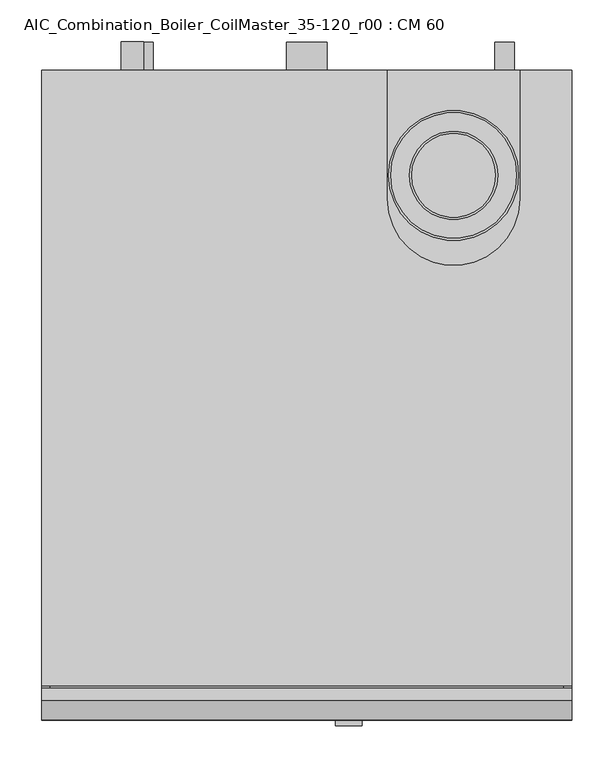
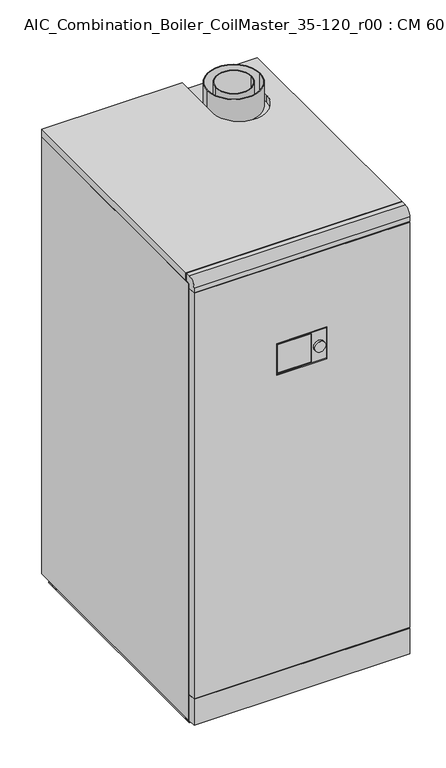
"""IFC4 building model written with IfcOpenShell, lengths in millimetres: unitary equipment geometry, AIC_Combination_Boiler_CoilMaster_35-120_r00 : CM 60."""

from ifc_helpers import new_model, si_unit, point, frame, frame_2d, origin, place, context, project, spatial, polyline, circle_curve, trimmed, segment, composite_curve, outline, extrude, source, transform, mapped, element, save
from ifc_brep_helpers import plane_surface, cylinder_surface, revolved_surface, advanced_brep


def aic_combination_boiler_coilmaster_35_120_r00_cm_60_199503dd(model_context):
    return source(origin(), model_context, "Body", "SolidModel", [
        advanced_brep(
        [(72.0, -774.0, 1115.5), (-72.0, -774.0, 1115.5), (-72.0, -774.0, 1022.5), (72.0, -774.0, 1022.5), (-70.0, -774.0, 1113.5), (28.0, -774.0, 1113.5), (28.0, -774.0, 1024.5), (-70.0, -774.0, 1024.5), (66.0, -774.0, 1069.0), (34.0, -774.0, 1069.0), (72.0, -764.0, 1115.5), (72.0, -764.0, 1022.5), (-72.0, -764.0, 1022.5), (-72.0, -764.0, 1115.5), (28.0, -772.0, 1113.5), (-70.0, -772.0, 1113.5), (-70.0, -772.0, 1024.5), (28.0, -772.0, 1024.5), (34.0, -781.0, 1069.0), (66.0, -781.0, 1069.0)],
        [
            (0, 1),
            (1, 2),
            (2, 3),
            (3, 0),
            (4, 5),
            (5, 6),
            (6, 7),
            (7, 4),
            (8, 9, circle_curve(frame((50.0, -774.0, 1069.0), z_axis=(0.0, 1.0, 0.0), x_axis=(1.0, 0.0, 0.0)), 16.0)),
            (9, 8, circle_curve(frame((50.0, -774.0, 1069.0), z_axis=(0.0, 1.0, 0.0), x_axis=(1.0, 0.0, 0.0)), 16.0)),
            (10, 11),
            (11, 12),
            (12, 13),
            (13, 10),
            (0, 10),
            (13, 1),
            (12, 2),
            (11, 3),
            (14, 15),
            (15, 16),
            (16, 17),
            (17, 14),
            (14, 5),
            (4, 15),
            (7, 16),
            (6, 17),
            (18, 19, circle_curve(frame((50.0, -781.0, 1069.0), z_axis=(0.0, -1.0, 0.0), x_axis=(1.0, 0.0, 0.0)), 16.0)),
            (19, 18, circle_curve(frame((50.0, -781.0, 1069.0), z_axis=(0.0, -1.0, 0.0), x_axis=(1.0, 0.0, 0.0)), 16.0)),
            (18, 9),
            (8, 19),
        ],
        [
            plane_surface(frame((-72.0, -774.0, 1115.5), z_axis=(0.0, -1.0, 0.0), x_axis=(-1.0, 0.0, 0.0))),
            plane_surface(frame((-72.0, -764.0, 1115.5), z_axis=(0.0, 1.0, 0.0), x_axis=(1.0, 0.0, 0.0))),
            plane_surface(frame((72.0, -774.0, 1115.5), z_axis=(0.0, 0.0, 1.0), x_axis=(0.0, 1.0, 0.0))),
            plane_surface(frame((-72.0, -774.0, 1115.5), z_axis=(-1.0, 0.0, 0.0), x_axis=(0.0, 1.0, 0.0))),
            plane_surface(frame((-72.0, -774.0, 1022.5), z_axis=(0.0, 0.0, -1.0), x_axis=(0.0, 1.0, 0.0))),
            plane_surface(frame((72.0, -774.0, 1022.5), z_axis=(1.0, 0.0, 0.0), x_axis=(0.0, 1.0, 0.0))),
            plane_surface(frame((-70.0, -772.0, 1113.5), z_axis=(0.0, -1.0, 0.0), x_axis=(1.0, 0.0, 0.0))),
            plane_surface(frame((28.0, -774.0, 1113.5), z_axis=(0.0, 0.0, -1.0), x_axis=(0.0, 1.0, 0.0))),
            plane_surface(frame((-70.0, -774.0, 1113.5), z_axis=(1.0, 0.0, 0.0), x_axis=(0.0, 1.0, 0.0))),
            plane_surface(frame((-70.0, -774.0, 1024.5), z_axis=(0.0, 0.0, 1.0), x_axis=(0.0, 1.0, 0.0))),
            plane_surface(frame((28.0, -774.0, 1024.5), z_axis=(-1.0, 0.0, 0.0), x_axis=(0.0, 1.0, 0.0))),
            plane_surface(frame((66.0, -781.0, 1069.0), z_axis=(0.0, -1.0, 0.0), x_axis=(0.0, 0.0, 1.0))),
            cylinder_surface(frame((50.0, -774.0, 1069.0), z_axis=(0.0, -1.0, 0.0), x_axis=(1.0, 0.0, 0.0)), 16.0),
        ],
        [
            (0, [[1, 2, 3, 4], [5, 6, 7, 8], [9, 10]]),
            (1, [[11, 12, 13, 14]]),
            (2, [[-1, 15, -14, 16]]),
            (3, [[-2, -16, -13, 17]]),
            (4, [[-3, -17, -12, 18]]),
            (5, [[-4, -18, -11, -15]]),
            (6, [[19, 20, 21, 22]]),
            (7, [[-19, 23, -5, 24]]),
            (8, [[-20, -24, -8, 25]]),
            (9, [[-21, -25, -7, 26]]),
            (10, [[-22, -26, -6, -23]]),
            (11, [[27, 28]]),
            (12, [[-27, 29, -9, 30]]),
            (12, [[-28, -30, -10, -29]]),
        ],
    ),
        extrude(outline(polyline([(0.0, -35.0), (0.0, 35.0), (102.0, 74.5), (102.0, -74.5), (0.0, -35.0)])), frame((0.0, -733.0, 0.0), z_axis=(0.0, 1.0, 0.0), x_axis=(0.0, 0.0, 1.0)), (0.0, 0.0, 1.0), 715.0),
        extrude(outline(composite_curve([segment(trimmed(circle_curve(frame_2d((139.0, 236.0)), 11.5), [point((139.0, 224.5))], [point((139.0, 247.5))], False, "CARTESIAN"), True, "CONTINUOUS"), segment(trimmed(circle_curve(frame_2d((139.0, 236.0)), 11.5), [point((139.0, 247.5))], [point((139.0, 224.5))], False, "CARTESIAN"), True, "CONTINUOUS")], self_intersect=False)), frame((0.0, 0.0, 0.0), z_axis=(0.0, 1.0, 0.0), x_axis=(0.0, 0.0, 1.0)), (0.0, 0.0, 1.0), 34.0),
        extrude(outline(composite_curve([segment(trimmed(circle_curve(frame_2d((301.0, 0.0)), 24.15), [point((301.0, -24.15))], [point((301.0, 24.15))], False, "CARTESIAN"), True, "CONTINUOUS"), segment(trimmed(circle_curve(frame_2d((301.0, 0.0)), 24.15), [point((301.0, 24.15))], [point((301.0, -24.15))], False, "CARTESIAN"), True, "CONTINUOUS")], self_intersect=False)), frame((0.0, 0.0, 0.0), z_axis=(0.0, 1.0, 0.0), x_axis=(0.0, 0.0, 1.0)), (0.0, 0.0, 1.0), 34.0),
        extrude(outline(composite_curve([segment(trimmed(circle_curve(frame_2d((352.0, -204.0)), 16.7), [point((352.0, -220.7))], [point((352.0, -187.3))], False, "CARTESIAN"), True, "CONTINUOUS"), segment(trimmed(circle_curve(frame_2d((352.0, -204.0)), 16.7), [point((352.0, -187.3))], [point((352.0, -220.7))], False, "CARTESIAN"), True, "CONTINUOUS")], self_intersect=False)), frame((0.0, 0.0, 0.0), z_axis=(0.0, 1.0, 0.0), x_axis=(0.0, 0.0, 1.0)), (0.0, 0.0, 1.0), 34.0),
        extrude(outline(composite_curve([segment(trimmed(circle_curve(frame_2d((472.0, -204.0)), 13.35), [point((472.0, -217.35))], [point((472.0, -190.65))], False, "CARTESIAN"), True, "CONTINUOUS"), segment(trimmed(circle_curve(frame_2d((472.0, -204.0)), 13.35), [point((472.0, -190.65))], [point((472.0, -217.35))], False, "CARTESIAN"), True, "CONTINUOUS")], self_intersect=False)), frame((0.0, 0.0, 0.0), z_axis=(0.0, 1.0, 0.0), x_axis=(0.0, 0.0, 1.0)), (0.0, 0.0, 1.0), 34.0),
        extrude(outline(composite_curve([segment(trimmed(circle_curve(frame_2d((586.0, -204.0)), 16.7), [point((586.0, -220.7))], [point((586.0, -187.3))], False, "CARTESIAN"), True, "CONTINUOUS"), segment(trimmed(circle_curve(frame_2d((586.0, -204.0)), 16.7), [point((586.0, -187.3))], [point((586.0, -220.7))], False, "CARTESIAN"), True, "CONTINUOUS")], self_intersect=False)), frame((0.0, 0.0, 0.0), z_axis=(0.0, 1.0, 0.0), x_axis=(0.0, 0.0, 1.0)), (0.0, 0.0, 1.0), 34.0),
        extrude(outline(composite_curve([segment(trimmed(circle_curve(frame_2d((1039.0, -200.0)), 16.7), [point((1039.0, -216.7))], [point((1039.0, -183.3))], False, "CARTESIAN"), True, "CONTINUOUS"), segment(trimmed(circle_curve(frame_2d((1039.0, -200.0)), 16.7), [point((1039.0, -183.3))], [point((1039.0, -216.7))], False, "CARTESIAN"), True, "CONTINUOUS")], self_intersect=False)), frame((0.0, 0.0, 0.0), z_axis=(0.0, 1.0, 0.0), x_axis=(0.0, 0.0, 1.0)), (0.0, 0.0, 1.0), 34.0),
        extrude(outline(composite_curve([segment(trimmed(circle_curve(frame_2d((1087.0, 0.0)), 24.15), [point((1087.0, -24.15))], [point((1087.0, 24.15))], False, "CARTESIAN"), True, "CONTINUOUS"), segment(trimmed(circle_curve(frame_2d((1087.0, 0.0)), 24.15), [point((1087.0, 24.15))], [point((1087.0, -24.15))], False, "CARTESIAN"), True, "CONTINUOUS")], self_intersect=False)), frame((0.0, 0.0, 0.0), z_axis=(0.0, 1.0, 0.0), x_axis=(0.0, 0.0, 1.0)), (0.0, 0.0, 1.0), 34.0),
        extrude(outline(composite_curve([segment(trimmed(circle_curve(frame_2d((1220.0, -208.0)), 13.35), [point((1220.0, -221.35))], [point((1220.0, -194.65))], False, "CARTESIAN"), True, "CONTINUOUS"), segment(trimmed(circle_curve(frame_2d((1220.0, -208.0)), 13.35), [point((1220.0, -194.65))], [point((1220.0, -221.35))], False, "CARTESIAN"), True, "CONTINUOUS")], self_intersect=False)), frame((0.0, 0.0, 0.0), z_axis=(0.0, 1.0, 0.0), x_axis=(0.0, 0.0, 1.0)), (0.0, 0.0, 1.0), 34.0),
        extrude(outline(composite_curve([segment(trimmed(circle_curve(frame_2d((175.0, -125.0)), 52.5), [point((122.5, -125.0))], [point((227.5, -125.0))], False, "CARTESIAN"), True, "CONTINUOUS"), segment(trimmed(circle_curve(frame_2d((175.0, -125.0)), 52.5), [point((227.5, -125.0))], [point((122.5, -125.0))], False, "CARTESIAN"), True, "CONTINUOUS")], self_intersect=False), holes=[composite_curve([segment(trimmed(circle_curve(frame_2d((175.0, -125.0)), 50.0), [point((125.0, -125.0))], [point((225.0, -125.0))], True, "CARTESIAN"), True, "CONTINUOUS"), segment(trimmed(circle_curve(frame_2d((175.0, -125.0)), 50.0), [point((225.0, -125.0))], [point((125.0, -125.0))], True, "CARTESIAN"), True, "CONTINUOUS")], self_intersect=False)]), frame((0.0, 0.0, 1374.5), z_axis=(0.0, 0.0, 1.0), x_axis=(1.0, 0.0, 0.0)), (0.0, 0.0, 1.0), 73.5),
        extrude(outline(composite_curve([segment(trimmed(circle_curve(frame_2d((175.0, -125.0)), 77.5), [point((97.5, -125.0))], [point((252.5, -125.0))], False, "CARTESIAN"), True, "CONTINUOUS"), segment(trimmed(circle_curve(frame_2d((175.0, -125.0)), 77.5), [point((252.5, -125.0))], [point((97.5, -125.0))], False, "CARTESIAN"), True, "CONTINUOUS")], self_intersect=False), holes=[composite_curve([segment(trimmed(circle_curve(frame_2d((175.0, -125.0)), 75.0), [point((100.0, -125.0))], [point((250.0, -125.0))], True, "CARTESIAN"), True, "CONTINUOUS"), segment(trimmed(circle_curve(frame_2d((175.0, -125.0)), 75.0), [point((250.0, -125.0))], [point((100.0, -125.0))], True, "CARTESIAN"), True, "CONTINUOUS")], self_intersect=False)]), frame((0.0, 0.0, 1374.5), z_axis=(0.0, 0.0, 1.0), x_axis=(1.0, 0.0, 0.0)), (0.0, 0.0, 1.0), 73.5),
        advanced_brep(
        [(316.0, -774.0, 20.0), (-316.0, -774.0, 20.0), (-316.0, -750.5, 20.0), (-306.0, -750.5, 20.0), (-306.0, -748.0, 20.0), (306.0, -748.0, 20.0), (306.0, -750.5, 20.0), (316.0, -750.5, 20.0), (-316.0, 0.0, 20.0), (-306.0, 0.0, 20.0), (-306.0, -58.0, 20.0), (-306.0, -693.0, 20.0), (-316.0, -748.0, 20.0), (306.0, 0.0, 20.0), (316.0, 0.0, 20.0), (316.0, -748.0, 20.0), (306.0, -693.0, 20.0), (306.0, -58.0, 20.0), (-306.0, -748.0, 100.0), (306.0, -748.0, 100.0), (-306.0, -18.0, 0.0), (-260.0, -18.0, 0.0), (-260.0, -733.0, 0.0), (-306.0, -733.0, 0.0), (260.0, -18.0, 0.0), (306.0, -18.0, 0.0), (306.0, -733.0, 0.0), (260.0, -733.0, 0.0), (-306.0, -58.0, 102.0), (-260.0, -58.0, 102.0), (-260.0, -58.0, 3.0), (-306.0, -58.0, 3.0), (-306.0, -18.0, 3.0), (-306.0, -733.0, 3.0), (-306.0, -693.0, 3.0), (-260.0, -693.0, 102.0), (-306.0, -693.0, 102.0), (-260.0, -693.0, 3.0), (-260.0, -733.0, 3.0), (-260.0, -18.0, 3.0), (260.0, -58.0, 102.0), (306.0, -58.0, 102.0), (306.0, -58.0, 3.0), (260.0, -58.0, 3.0), (260.0, -693.0, 102.0), (260.0, -18.0, 3.0), (260.0, -733.0, 3.0), (260.0, -693.0, 3.0), (306.0, -693.0, 102.0), (306.0, -693.0, 3.0), (306.0, -733.0, 3.0), (306.0, -18.0, 3.0), (-316.0, -750.5, 1398.0), (316.0, -750.5, 1398.0), (316.0, -736.0, 1398.0), (-316.0, -736.0, 1398.0), (-316.0, 0.0, 1398.0), (-316.0, -733.0, 1398.0), (316.0, -733.0, 1398.0), (316.0, 0.0, 1398.0), (254.5, 0.0, 1398.0), (254.5, -153.0, 1398.0), (95.5, -153.0, 1398.0), (95.5, 0.0, 1398.0), (-306.0, 0.0, 102.0), (306.0, 0.0, 102.0), (306.0, -748.0, 102.0), (306.0, -750.5, 102.0), (316.0, -750.5, 102.0), (316.0, -774.0, 102.0), (-316.0, -774.0, 102.0), (-316.0, -750.5, 102.0), (-306.0, -750.5, 102.0), (-306.0, -748.0, 102.0), (316.0, 0.0, 1374.5), (306.0, 0.0, 1374.5), (306.0, 0.0, 1372.5), (316.0, 0.0, 1372.5), (-316.0, 0.0, 1372.5), (-306.0, 0.0, 1372.5), (-306.0, 0.0, 1374.5), (-316.0, 0.0, 1374.5), (95.5, 0.0, 1374.5), (254.5, 0.0, 1374.5), (-21.1, 0.0, 1173.0), (21.1, 0.0, 1173.0), (-316.0, -774.0, 1358.0), (-316.0, -750.5, 1358.0), (-316.0, -733.0, 1374.5), (-316.0, -774.0, 1374.5), (-316.0, -736.0, 1374.5), (-316.0, -750.5, 1374.5), (-316.0, -750.5, 1360.0), (-316.0, -774.0, 1360.0), (-316.0, -774.0, 100.0), (-316.0, -750.5, 100.0), (-316.0, -748.0, 1372.5), (316.0, -774.0, 100.0), (316.0, -774.0, 1358.0), (-73.5, -774.0, 1118.0), (73.5, -774.0, 1118.0), (73.5, -774.0, 1020.0), (-73.5, -774.0, 1020.0), (316.0, -774.0, 1374.5), (316.0, -774.0, 1360.0), (316.0, -750.5, 1358.0), (316.0, -733.0, 1374.5), (316.0, -750.5, 100.0), (316.0, -750.5, 1360.0), (316.0, -750.5, 1374.5), (316.0, -736.0, 1374.5), (316.0, -748.0, 1372.5), (73.5, -764.0, 1118.0), (-73.5, -764.0, 1118.0), (-73.5, -764.0, 1020.0), (73.5, -764.0, 1020.0), (306.0, -750.5, 100.0), (-306.0, -750.5, 100.0), (-306.0, -748.0, 1372.5), (306.0, -748.0, 1372.5), (-306.0, -750.5, 1358.0), (-306.0, -750.5, 1374.5), (-306.0, -750.5, 1360.0), (306.0, -750.5, 1358.0), (306.0, -750.5, 1374.5), (306.0, -750.5, 1360.0), (306.0, -733.0, 1374.5), (-306.0, -733.0, 1374.5), (-306.0, -736.0, 1374.5), (306.0, -736.0, 1374.5), (-21.1, -58.0, 1173.0), (21.1, -58.0, 1173.0), (254.5, -153.0, 1374.5), (95.5, -153.0, 1374.5)],
        [
            (0, 1),
            (1, 2),
            (2, 3),
            (3, 4),
            (4, 5),
            (5, 6),
            (6, 7),
            (7, 0),
            (8, 9),
            (9, 10),
            (10, 11),
            (11, 4),
            (4, 12),
            (12, 8),
            (13, 14),
            (14, 15),
            (15, 5),
            (5, 16),
            (16, 17),
            (17, 13),
            (4, 18),
            (18, 19),
            (19, 5),
            (20, 21),
            (21, 22),
            (22, 23),
            (23, 20),
            (24, 25),
            (25, 26),
            (26, 27),
            (27, 24),
            (28, 29),
            (29, 30),
            (30, 31),
            (31, 10),
            (10, 28),
            (31, 32),
            (32, 20),
            (23, 33),
            (33, 34),
            (34, 11),
            (35, 36),
            (36, 11),
            (34, 37),
            (37, 35),
            (29, 35),
            (37, 38),
            (38, 22),
            (21, 39),
            (39, 30),
            (40, 41),
            (41, 17),
            (17, 42),
            (42, 43),
            (43, 40),
            (44, 40),
            (43, 45),
            (45, 24),
            (27, 46),
            (46, 47),
            (47, 44),
            (48, 44),
            (47, 49),
            (49, 16),
            (16, 48),
            (49, 50),
            (50, 26),
            (25, 51),
            (51, 42),
            (52, 53),
            (53, 54),
            (54, 55),
            (55, 52),
            (56, 57),
            (57, 58),
            (58, 59),
            (59, 60),
            (60, 61),
            (61, 62, circle_curve(frame((175.0, -153.0, 1398.0), z_axis=(0.0, 0.0, -1.0), x_axis=(1.0, 0.0, 0.0)), 79.5)),
            (62, 63),
            (63, 56),
            (28, 64),
            (64, 65),
            (65, 41),
            (48, 66),
            (66, 67),
            (67, 68),
            (68, 69),
            (69, 70),
            (70, 71),
            (71, 72),
            (72, 73),
            (73, 36),
            (59, 74),
            (74, 75),
            (75, 76),
            (76, 77),
            (77, 14),
            (13, 65),
            (64, 9),
            (8, 78),
            (78, 79),
            (79, 80),
            (80, 81),
            (81, 56),
            (63, 82),
            (82, 83),
            (83, 60),
            (84, 85, circle_curve(frame((0.0, 0.0, 1173.0), z_axis=(0.0, -1.0, 0.0), x_axis=(1.0, 0.0, 0.0)), 21.1)),
            (85, 84, circle_curve(frame((0.0, 0.0, 1173.0), z_axis=(0.0, -1.0, 0.0), x_axis=(1.0, 0.0, 0.0)), 21.1)),
            (70, 86),
            (86, 87),
            (87, 71),
            (81, 88),
            (88, 57),
            (89, 52, circle_curve(frame((-316.0, -750.5, 1374.5), z_axis=(-1.0, 0.0, 0.0), x_axis=(0.0, 1.0, 0.0)), 23.5)),
            (55, 90),
            (90, 91),
            (91, 92),
            (92, 93),
            (93, 89),
            (1, 94),
            (94, 95),
            (95, 2),
            (96, 78),
            (12, 96),
            (0, 97),
            (97, 94),
            (69, 98),
            (98, 86),
            (99, 100),
            (100, 101),
            (101, 102),
            (102, 99),
            (103, 89),
            (93, 104),
            (104, 103),
            (68, 105),
            (105, 98),
            (58, 106),
            (106, 74),
            (7, 107),
            (107, 97),
            (53, 103, circle_curve(frame((316.0, -750.5, 1374.5), z_axis=(1.0, 0.0, 0.0), x_axis=(0.0, 1.0, 0.0)), 23.5)),
            (104, 108),
            (108, 109),
            (109, 110),
            (110, 54),
            (77, 111),
            (111, 15),
            (112, 113),
            (113, 114),
            (114, 115),
            (115, 112),
            (112, 100),
            (99, 113),
            (102, 114),
            (101, 115),
            (73, 18),
            (19, 66),
            (33, 38),
            (46, 50),
            (39, 32),
            (51, 45),
            (107, 116),
            (116, 19),
            (18, 117),
            (117, 95),
            (73, 118),
            (118, 96),
            (4, 18),
            (19, 5),
            (111, 119),
            (119, 66),
            (87, 120),
            (120, 72),
            (91, 121),
            (121, 122),
            (122, 92),
            (117, 3),
            (67, 123),
            (123, 105),
            (124, 109),
            (108, 125),
            (125, 124),
            (6, 116),
            (106, 126),
            (126, 75),
            (80, 127),
            (127, 88),
            (90, 128),
            (128, 121),
            (124, 129),
            (129, 110),
            (118, 79),
            (76, 119),
            (120, 122),
            (128, 127),
            (126, 129),
            (125, 123),
            (126, 127),
            (128, 129),
            (122, 125),
            (123, 120),
            (130, 131, circle_curve(frame((0.0, -58.0, 1173.0), z_axis=(0.0, 1.0, 0.0), x_axis=(1.0, 0.0, 0.0)), 21.1)),
            (131, 130, circle_curve(frame((0.0, -58.0, 1173.0), z_axis=(0.0, 1.0, 0.0), x_axis=(1.0, 0.0, 0.0)), 21.1)),
            (131, 85),
            (84, 130),
            (132, 83),
            (82, 133),
            (133, 132, circle_curve(frame((175.0, -153.0, 1374.5), z_axis=(0.0, 0.0, 1.0), x_axis=(1.0, 0.0, 0.0)), 79.5)),
            (132, 61),
            (62, 133),
        ],
        [
            plane_surface(frame((-316.0, -748.0, 20.0), z_axis=(0.0, 0.0, -1.0), x_axis=(1.0, 0.0, 0.0))),
            plane_surface(frame((316.0, -748.0, 102.0), z_axis=(0.0, 1.0, 0.0), x_axis=(0.0, 0.0, -1.0))),
            plane_surface(frame((-306.0, -58.0, 0.0), z_axis=(0.0, 0.0, -1.0), x_axis=(1.0, 0.0, 0.0))),
            plane_surface(frame((-260.0, -58.0, 102.0), z_axis=(0.0, 1.0, 0.0), x_axis=(0.0, 0.0, -1.0))),
            plane_surface(frame((-306.0, -58.0, 102.0), z_axis=(-1.0, 0.0, 0.0), x_axis=(0.0, 0.0, -1.0))),
            plane_surface(frame((-306.0, -693.0, 102.0), z_axis=(0.0, -1.0, 0.0), x_axis=(0.0, 0.0, -1.0))),
            plane_surface(frame((-260.0, -693.0, 102.0), z_axis=(1.0, 0.0, 0.0), x_axis=(0.0, 0.0, -1.0))),
            plane_surface(frame((306.0, -58.0, 102.0), z_axis=(0.0, 1.0, 0.0), x_axis=(0.0, 0.0, -1.0))),
            plane_surface(frame((260.0, -58.0, 102.0), z_axis=(-1.0, 0.0, 0.0), x_axis=(0.0, 0.0, -1.0))),
            plane_surface(frame((260.0, -693.0, 102.0), z_axis=(0.0, -1.0, 0.0), x_axis=(0.0, 0.0, -1.0))),
            plane_surface(frame((306.0, -693.0, 102.0), z_axis=(1.0, 0.0, 0.0), x_axis=(0.0, 0.0, -1.0))),
            plane_surface(frame((-316.0, 0.0, 1398.0), z_axis=(0.0, 0.0, 1.0), x_axis=(-1.0, 0.0, 0.0))),
            plane_surface(frame((-316.0, 0.0, 102.0), z_axis=(0.0, 0.0, -1.0), x_axis=(1.0, 0.0, 0.0))),
            plane_surface(frame((316.0, 0.0, 1398.0), z_axis=(0.0, 1.0, 0.0), x_axis=(0.0, 0.0, -1.0))),
            plane_surface(frame((-316.0, 0.0, 1398.0), z_axis=(-1.0, 0.0, 0.0), x_axis=(0.0, 0.0, -1.0))),
            plane_surface(frame((-316.0, -774.0, 1398.0), z_axis=(0.0, -1.0, 0.0), x_axis=(0.0, 0.0, -1.0))),
            plane_surface(frame((316.0, -774.0, 1398.0), z_axis=(1.0, 0.0, 0.0), x_axis=(0.0, 0.0, -1.0))),
            plane_surface(frame((-73.5, -764.0, 1118.0), z_axis=(0.0, -1.0, 0.0), x_axis=(1.0, 0.0, 0.0))),
            plane_surface(frame((73.5, -774.0, 1118.0), z_axis=(0.0, 0.0, -1.0), x_axis=(0.0, 1.0, 0.0))),
            plane_surface(frame((-73.5, -774.0, 1118.0), z_axis=(1.0, 0.0, 0.0), x_axis=(0.0, 1.0, 0.0))),
            plane_surface(frame((-73.5, -774.0, 1020.0), z_axis=(0.0, 0.0, 1.0), x_axis=(0.0, 1.0, 0.0))),
            plane_surface(frame((73.5, -774.0, 1020.0), z_axis=(-1.0, 0.0, 0.0), x_axis=(0.0, 1.0, 0.0))),
            plane_surface(frame((-306.0, -748.0, 102.0), z_axis=(1.0, 0.0, 0.0), x_axis=(0.0, 0.0, -1.0))),
            plane_surface(frame((306.0, 0.0, 102.0), z_axis=(-1.0, 0.0, 0.0), x_axis=(0.0, 0.0, -1.0))),
            plane_surface(frame((-306.0, -18.0, 3.0), z_axis=(0.0, 0.0, 1.0), x_axis=(-1.0, 0.0, 0.0))),
            plane_surface(frame((-260.0, -18.0, 3.0), z_axis=(0.0, 1.0, 0.0), x_axis=(0.0, 0.0, -1.0))),
            plane_surface(frame((306.0, -18.0, 3.0), z_axis=(0.0, 1.0, 0.0), x_axis=(0.0, 0.0, -1.0))),
            plane_surface(frame((260.0, -733.0, 3.0), z_axis=(0.0, -1.0, 0.0), x_axis=(0.0, 0.0, -1.0))),
            plane_surface(frame((-306.0, -733.0, 3.0), z_axis=(0.0, -1.0, 0.0), x_axis=(0.0, 0.0, -1.0))),
            cylinder_surface(frame((-316.0, -750.5, 1374.5), z_axis=(-1.0, 0.0, 0.0), x_axis=(0.0, 1.0, 0.0)), 23.5),
            plane_surface(frame((316.0, -774.0, 100.0), z_axis=(0.0, 0.0, 1.0), x_axis=(0.0, -1.0, 0.0))),
            plane_surface(frame((316.0, -748.0, 102.0), z_axis=(0.0, -1.0, 0.0), x_axis=(0.0, 0.0, -1.0))),
            plane_surface(frame((-316.0, -750.5, 1374.5), z_axis=(0.0, 1.0, 0.0), x_axis=(0.0, 0.0, -1.0))),
            plane_surface(frame((306.0, -750.5, 1374.5), z_axis=(0.0, 1.0, 0.0), x_axis=(0.0, 0.0, -1.0))),
            plane_surface(frame((-316.0, 0.0, 1374.5), z_axis=(0.0, 0.0, -1.0), x_axis=(-1.0, 0.0, 0.0))),
            plane_surface(frame((-316.0, 0.0, 1372.5), z_axis=(0.0, 0.0, 1.0), x_axis=(1.0, 0.0, 0.0))),
            plane_surface(frame((-306.0, -748.0, 1374.5), z_axis=(-1.0, 0.0, 0.0), x_axis=(0.0, 0.0, -1.0))),
            plane_surface(frame((306.0, 0.0, 1374.5), z_axis=(1.0, 0.0, 0.0), x_axis=(0.0, 0.0, -1.0))),
            plane_surface(frame((-316.0, -733.0, 1374.5), z_axis=(0.0, 0.0, 1.0), x_axis=(1.0, 0.0, 0.0))),
            plane_surface(frame((316.0, -733.0, 1398.0), z_axis=(0.0, -1.0, 0.0), x_axis=(0.0, 0.0, -1.0))),
            plane_surface(frame((-316.0, -736.0, 1398.0), z_axis=(0.0, 1.0, 0.0), x_axis=(0.0, 0.0, -1.0))),
            plane_surface(frame((-316.0, -750.5, 1360.0), z_axis=(0.0, 0.0, -1.0), x_axis=(-1.0, 0.0, 0.0))),
            plane_surface(frame((-316.0, -750.5, 1358.0), z_axis=(0.0, 0.0, 1.0), x_axis=(1.0, 0.0, 0.0))),
            plane_surface(frame((316.0, -750.5, 1360.0), z_axis=(0.0, -1.0, 0.0), x_axis=(0.0, 0.0, -1.0))),
            plane_surface(frame((21.1, -58.0, 1173.0), z_axis=(0.0, 1.0, 0.0), x_axis=(0.0, 0.0, 1.0))),
            revolved_surface(polyline([(21.1, -58.0, 1173.0), (21.1, 0.0, 1173.0)]), (0.0, 0.0, 1173.0), (0.0, -1.0, 0.0)),
            plane_surface(frame((254.5, 0.0, 1374.5), z_axis=(0.0, 0.0, 1.0), x_axis=(0.0, -1.0, 0.0))),
            plane_surface(frame((254.5, -153.0, 1398.0), z_axis=(-1.0, 0.0, 0.0), x_axis=(0.0, 0.0, -1.0))),
            plane_surface(frame((95.5, 0.0, 1398.0), z_axis=(1.0, 0.0, 0.0), x_axis=(0.0, 0.0, -1.0))),
            revolved_surface(polyline([(254.5, -153.0, 1398.0), (254.5, -153.0, 1374.5)]), (175.0, -153.0, 1374.5), (0.0, 0.0, 1.0)),
        ],
        [
            (0, [[1, 2, 3, 4, 5, 6, 7, 8]]),
            (0, [[9, 10, 11, 12, 13, 14]]),
            (0, [[15, 16, 17, 18, 19, 20]]),
            (1, [[-5, 21, 22, 23]]),
            (2, [[24, 25, 26, 27]]),
            (2, [[28, 29, 30, 31]]),
            (3, [[32, 33, 34, 35, 36]]),
            (4, [[-11, -35, 37, 38, -27, 39, 40, 41]]),
            (5, [[42, 43, -41, 44, 45]]),
            (6, [[46, -45, 47, 48, -25, 49, 50, -33]]),
            (7, [[51, 52, 53, 54, 55]]),
            (8, [[56, -55, 57, 58, -31, 59, 60, 61]]),
            (9, [[62, -61, 63, 64, 65]]),
            (10, [[-19, -64, 66, 67, -29, 68, 69, -53]]),
            (11, [[70, 71, 72, 73]]),
            (11, [[74, 75, 76, 77, 78, 79, 80, 81]]),
            (12, [[-32, 82, 83, 84, -51, -56, -62, 85, 86, 87, 88, 89, 90, 91, 92, 93, -42, -46]]),
            (13, [[94, 95, 96, 97, 98, -15, 99, -83, 100, -9, 101, 102, 103, 104, 105, -81, 106, 107, 108, -77], [109, 110]]),
            (14, [[-90, 111, 112, 113]]),
            (14, [[-105, 114, 115, -74]]),
            (14, [[116, -73, 117, 118, 119, 120, 121]]),
            (14, [[122, 123, 124, -2]]),
            (14, [[125, -101, -14, 126]]),
            (15, [[-1, 127, 128, -122]]),
            (15, [[-89, 129, 130, -111], [131, 132, 133, 134]]),
            (15, [[135, -121, 136, 137]]),
            (16, [[-88, 138, 139, -129]]),
            (16, [[-94, -76, 140, 141]]),
            (16, [[-127, -8, 142, 143]]),
            (16, [[144, -137, 145, 146, 147, 148, -71]]),
            (16, [[149, 150, -16, -98]]),
            (17, [[151, 152, 153, 154]]),
            (18, [[-151, 155, -131, 156]]),
            (19, [[-152, -156, -134, 157]]),
            (20, [[-153, -157, -133, 158]]),
            (21, [[-154, -158, -132, -155]]),
            (22, [[-12, -43, -93, 159, -21]]),
            (22, [[-100, -82, -36, -10]]),
            (23, [[-18, -23, 160, -85, -65]]),
            (23, [[-99, -20, -52, -84]]),
            (24, [[-40, 161, -47, -44]]),
            (24, [[-60, 162, -66, -63]]),
            (24, [[163, -37, -34, -50]]),
            (24, [[164, -57, -54, -69]]),
            (25, [[-163, -49, -24, -38]]),
            (26, [[-164, -68, -28, -58]]),
            (27, [[-162, -59, -30, -67]]),
            (28, [[-161, -39, -26, -48]]),
            (29, [[-70, -116, -135, -144]]),
            (30, [[-128, -143, 165, 166, -22, 167, 168, -123]]),
            (31, [[-159, 169, 170, -126, -13, 171]]),
            (31, [[-160, 172, -17, -150, 173, 174]]),
            (32, [[-91, -113, 175, 176]]),
            (32, [[177, 178, 179, -119]]),
            (32, [[180, -3, -124, -168]]),
            (33, [[-87, 181, 182, -138]]),
            (33, [[183, -146, 184, 185]]),
            (33, [[186, -165, -142, -7]]),
            (34, [[-95, -141, 187, 188]]),
            (34, [[-104, 189, 190, -114]]),
            (34, [[-177, -118, 191, 192]]),
            (34, [[-183, 193, 194, -147]]),
            (35, [[195, -102, -125, -170]]),
            (35, [[196, -173, -149, -97]]),
            (36, [[-171, -4, -180, -167]]),
            (36, [[-195, -169, -92, -176, 197, -178, -192, 198, -189, -103]]),
            (37, [[-172, -166, -186, -6]]),
            (37, [[-196, -96, -188, 199, -193, -185, 200, -181, -86, -174]]),
            (38, [[201, -198, 202, -199]]),
            (39, [[-201, -187, -140, -75, -115, -190]]),
            (40, [[-202, -191, -117, -72, -148, -194]]),
            (41, [[203, -184, -145, -136, -120, -179]]),
            (42, [[204, -175, -112, -130, -139, -182]]),
            (43, [[-203, -197, -204, -200]]),
            (44, [[205, 206]]),
            (45, [[-206, 207, -109, 208]]),
            (45, [[-205, -208, -110, -207]]),
            (46, [[209, -107, 210, 211]]),
            (47, [[-209, 212, -78, -108]]),
            (48, [[-210, -106, -80, 213]]),
            (49, [[-211, -213, -79, -212]]),
        ],
    ),
    ])


if __name__ == "__main__":
    model = new_model("IFC4")
    model_context = context("Model", 3, world=origin())
    ifc_project = project(units=[si_unit("LENGTHUNIT", "METRE", prefix="MILLI")], contexts=[model_context])
    site = spatial("IfcSite", under=ifc_project)
    building = spatial("IfcBuilding", under=site)
    placement = place(None, origin())
    aic_combination_boiler_coilmaster_35_120_r00_cm_60_shape = aic_combination_boiler_coilmaster_35_120_r00_cm_60_199503dd(model_context)
    element("IfcUnitaryEquipment", 1, ObjectType="AIC_Combination_Boiler_CoilMaster_35-120_r00 : CM 60", at=placement, inside=building, context=model_context, shape_type="MappedRepresentation", body=[
        mapped(aic_combination_boiler_coilmaster_35_120_r00_cm_60_shape, transform((0.0, 0.0, 0.0), x_axis=(1.0, 0.0, 0.0), y_axis=(0.0, 1.0, 0.0), z_axis=(0.0, 0.0, 1.0))),
    ])
    save(model, "model.ifc")
